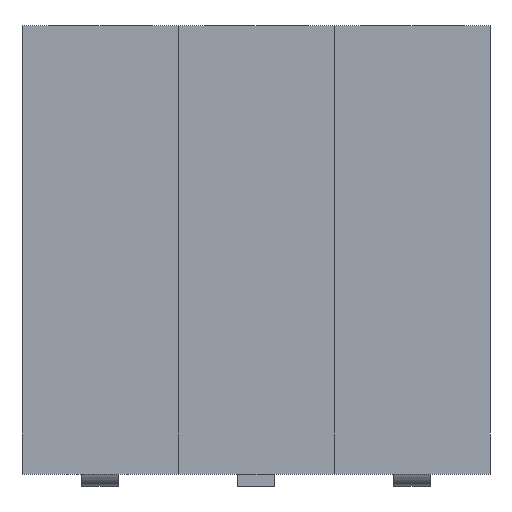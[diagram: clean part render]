
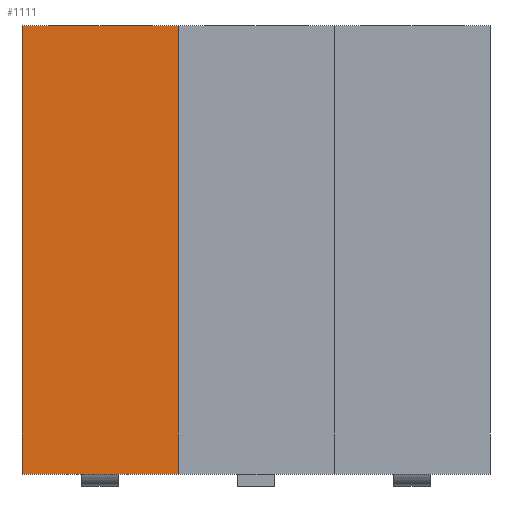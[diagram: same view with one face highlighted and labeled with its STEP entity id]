
A CAD part, left-side view. The second image highlights one B-rep face of the part: STEP entity #1111.
In plain terms, the highlighted planar face has unit normal (-1, 0, 0).
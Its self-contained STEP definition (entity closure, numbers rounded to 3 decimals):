
#979 = EDGE_CURVE('',#980,#982,#984,.T.);
#980 = VERTEX_POINT('',#981);
#981 = CARTESIAN_POINT('',(-1.25,1.27,7.5));
#982 = VERTEX_POINT('',#983);
#983 = CARTESIAN_POINT('',(-1.25,-1.27,7.5));
#984 = LINE('',#985,#986);
#985 = CARTESIAN_POINT('',(-1.25,1.27,7.5));
#986 = VECTOR('',#987,1.);
#987 = DIRECTION('',(0.,-1.,0.));
#1111 = ADVANCED_FACE('',(#1112),#1137,.F.);
#1112 = FACE_BOUND('',#1113,.F.);
#1113 = EDGE_LOOP('',(#1114,#1122,#1123,#1131));
#1114 = ORIENTED_EDGE('',*,*,#1115,.T.);
#1115 = EDGE_CURVE('',#1116,#980,#1118,.T.);
#1116 = VERTEX_POINT('',#1117);
#1117 = CARTESIAN_POINT('',(-1.25,1.27,0.2));
#1118 = LINE('',#1119,#1120);
#1119 = CARTESIAN_POINT('',(-1.25,1.27,0.2));
#1120 = VECTOR('',#1121,1.);
#1121 = DIRECTION('',(0.,0.,1.));
#1122 = ORIENTED_EDGE('',*,*,#979,.T.);
#1123 = ORIENTED_EDGE('',*,*,#1124,.F.);
#1124 = EDGE_CURVE('',#1125,#982,#1127,.T.);
#1125 = VERTEX_POINT('',#1126);
#1126 = CARTESIAN_POINT('',(-1.25,-1.27,0.2));
#1127 = LINE('',#1128,#1129);
#1128 = CARTESIAN_POINT('',(-1.25,-1.27,0.2));
#1129 = VECTOR('',#1130,1.);
#1130 = DIRECTION('',(0.,0.,1.));
#1131 = ORIENTED_EDGE('',*,*,#1132,.F.);
#1132 = EDGE_CURVE('',#1116,#1125,#1133,.T.);
#1133 = LINE('',#1134,#1135);
#1134 = CARTESIAN_POINT('',(-1.25,1.27,0.2));
#1135 = VECTOR('',#1136,1.);
#1136 = DIRECTION('',(0.,-1.,0.));
#1137 = PLANE('',#1138);
#1138 = AXIS2_PLACEMENT_3D('',#1139,#1140,#1141);
#1139 = CARTESIAN_POINT('',(-1.25,1.27,0.2));
#1140 = DIRECTION('',(1.,0.,0.));
#1141 = DIRECTION('',(0.,-1.,0.));
